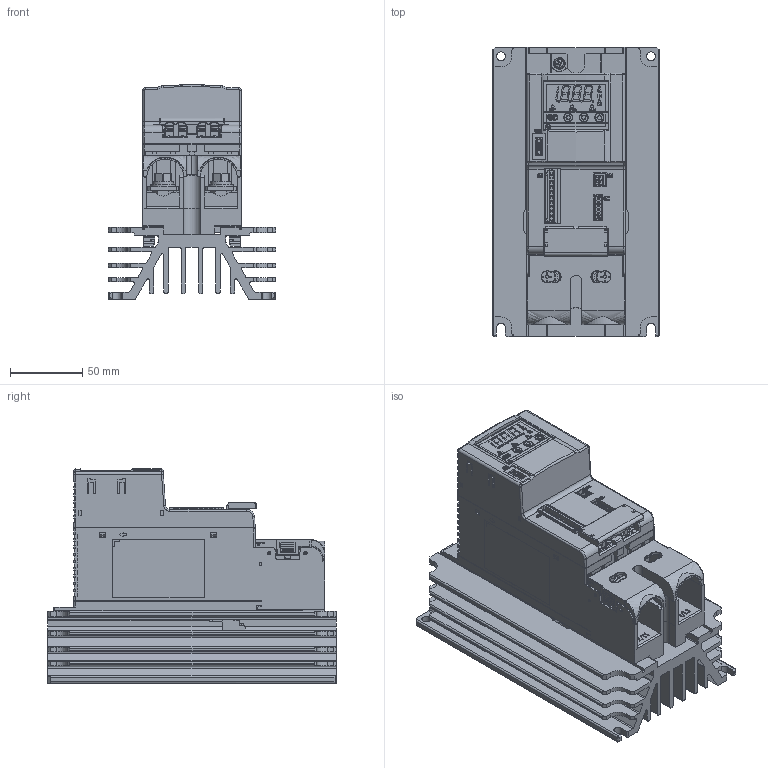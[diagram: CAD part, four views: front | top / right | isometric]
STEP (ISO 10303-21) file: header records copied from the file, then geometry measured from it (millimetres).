
FILE_DESCRIPTION (( 'STEP AP214' ), '1' );
FILE_NAME ('THV10(80 100A)_WEB.STEP', '2020-06-08T08:58:22', ( '' ), ( '' ), 'SwSTEP 2.0', 'SolidWorks 2018', '' );
FILE_SCHEMA (( 'AUTOMOTIVE_DESIGN' ));
Length unit declared in the file: millimetre
Products named in the file (4): KTHV4-53 _WEB_デフォルト; THV10_80100A(基本設計)_デフォルト; THV10(80 100A)_WEB; KTHV4-54 _web_デフォルト
Assembly tree (3 placements, depth 2):
  THV10(80 100A)_WEB
    THV10_80100A(基本設計)_デフォルト
    KTHV4-53 _WEB_デフォルト
    KTHV4-54 _web_デフォルト
Bounding box: 116 x 200 x 148.55 mm (x, y, z)
Volume: 1239386.5 mm3; surface area: 347043.2 mm2
Topology: 3 solids, 7 shells, 6109 faces, 17309 edges, 11282 vertices
Faces by surface type: plane 4558, bspline 837, cylinder 616, cone 43, torus 38, sphere 17
Full cylindrical faces by diameter (mm): 0.4 x1, 0.457 x1, 0.7 x4, 1.262 x4, 1.6 x1, 1.8 x2, 2.2 x1, 2.3 x4, 3 x8, 4 x5, 4.5 x1, 4.8 x2, 5.2 x2, 5.5 x4, 6.2 x2, 7 x1, 8 x3, 14.5 x2, 17 x2
Entity records: 273069 total; most frequent: CARTESIAN_POINT 60049, ORIENTED_EDGE 34304, DIRECTION 26349, EDGE_CURVE 17152, VECTOR 13157, LINE 13157, VERTEX_POINT 11257, AXIS2_PLACEMENT_3D 6596
